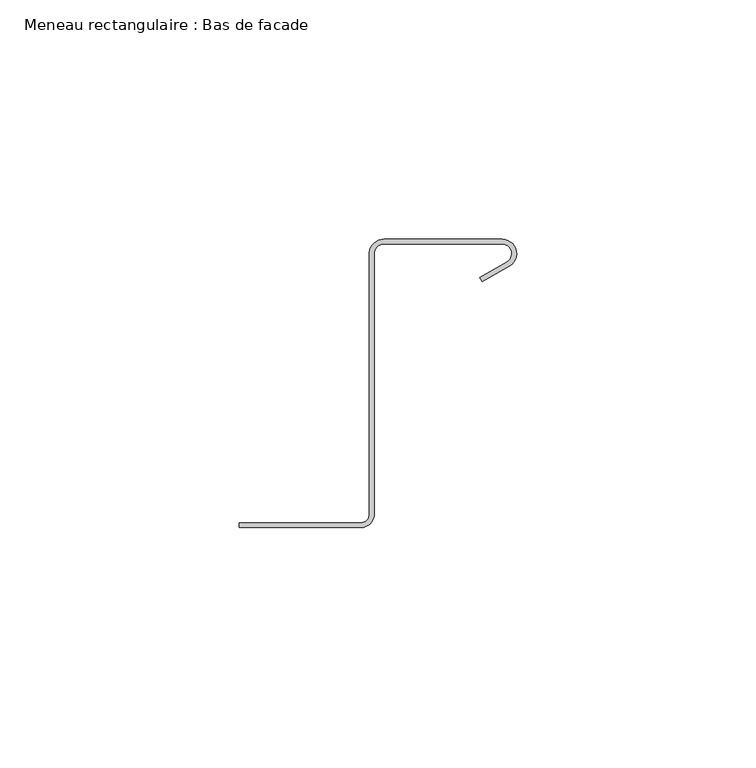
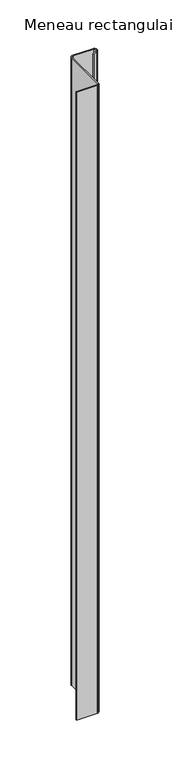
"""IFC4 building model written with IfcOpenShell, lengths in millimetres: member geometry, Meneau rectangulaire : Bas de facade."""

from ifc_helpers import new_model, si_unit, point, frame, frame_2d, origin, place, context, project, spatial, polyline, circle_curve, trimmed, segment, composite_curve, outline, extrude, source, transform, mapped, element, save


def meneau_rectangulaire_bas_de_facade_59c8f768(model_context):
    return source(origin(), model_context, "Body", "SweptSolid", [
        extrude(outline(composite_curve([segment(polyline([(-32.4584179, -2.9588923), (-57.8548383, -2.9588923), (-57.8548383, -1.9588923), (-32.4584179, -1.9588923)]), True, "CONTINUOUS"), segment(trimmed(circle_curve(frame_2d((-32.4584179, -0.2088923)), 1.75), [point((-32.4584179, -1.9588923))], [point((-30.7239521, -0.4415475))], True, "CARTESIAN"), True, "CONTINUOUS"), segment(polyline([(-30.7239521, -0.4415475), (-30.7239521, 54.522067)]), True, "CONTINUOUS"), segment(trimmed(circle_curve(frame_2d((-27.735368, 54.2605998)), 3.0), [point((-30.7239521, 54.522067))], [point((-27.735368, 57.2605998))], False, "CARTESIAN"), True, "CONTINUOUS"), segment(polyline([(-27.735368, 57.2605998), (-3.0, 57.2605998)]), True, "CONTINUOUS"), segment(trimmed(circle_curve(frame_2d((-3.0, 54.2605998)), 3.0), [point((-3.0, 57.2605998))], [point((-1.5, 51.6625235))], False, "CARTESIAN"), True, "CONTINUOUS"), segment(polyline([(-1.5, 51.6625235), (-7.1638061, 48.3925235), (-7.6638061, 49.258549), (-2.0, 52.528549)]), True, "CONTINUOUS"), segment(trimmed(circle_curve(frame_2d((-3.0, 54.2605998)), 2.0), [point((-2.0, 52.528549))], [point((-3.0, 56.2605998))], True, "CARTESIAN"), True, "CONTINUOUS"), segment(polyline([(-3.0, 56.2605998), (-27.735368, 56.2605998)]), True, "CONTINUOUS"), segment(trimmed(circle_curve(frame_2d((-27.735368, 54.2605998)), 2.0), [point((-27.735368, 56.2605998))], [point((-29.7143802, 54.5495817))], True, "CARTESIAN"), True, "CONTINUOUS"), segment(polyline([(-29.7143802, 54.5495817), (-29.7143802, -0.3898824)]), True, "CONTINUOUS"), segment(trimmed(circle_curve(frame_2d((-32.4584179, -0.2088923)), 2.75), [point((-29.7143802, -0.3898824))], [point((-32.4584179, -2.9588923))], False, "CARTESIAN"), True, "CONTINUOUS")], self_intersect=False)), frame((0.0, 0.0, -801.0000003), z_axis=(0.0, 0.0, 1.0), x_axis=(1.0, 0.0, 0.0)), (0.0, 0.0, 1.0), 801.0000003),
    ])


if __name__ == "__main__":
    model = new_model("IFC4")
    model_context = context("Model", 3, world=origin())
    ifc_project = project(units=[si_unit("LENGTHUNIT", "METRE", prefix="MILLI")], contexts=[model_context])
    site = spatial("IfcSite", under=ifc_project)
    building = spatial("IfcBuilding", under=site)
    placement = place(None, origin())
    meneau_rectangulaire_bas_de_facade_shape = meneau_rectangulaire_bas_de_facade_59c8f768(model_context)
    element("IfcMember", 1, ObjectType="Meneau rectangulaire : Bas de facade", at=placement, inside=building, context=model_context, shape_type="MappedRepresentation", body=[
        mapped(meneau_rectangulaire_bas_de_facade_shape, transform((0.0, 0.0, 0.0), x_axis=(1.0, 0.0, 0.0), y_axis=(0.0, 1.0, 0.0), z_axis=(0.0, 0.0, 1.0))),
    ])
    save(model, "model.ifc")
